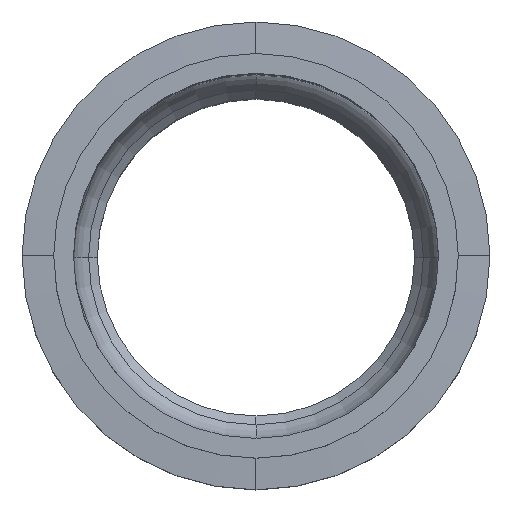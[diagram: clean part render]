
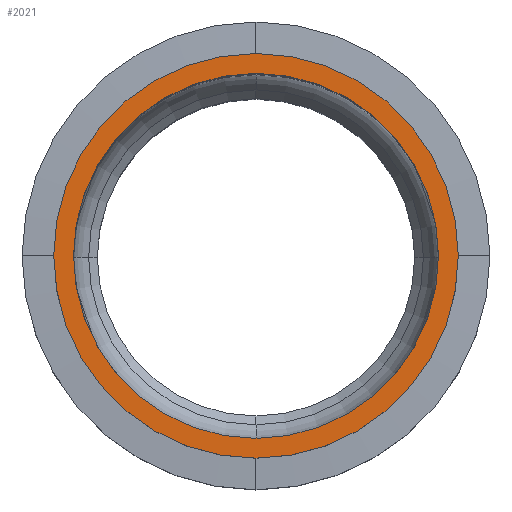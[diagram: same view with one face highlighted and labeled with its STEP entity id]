
A CAD part, top view. The second image highlights one B-rep face of the part: STEP entity #2021.
In plain terms, the highlighted planar face has unit normal (0, 0, 1).
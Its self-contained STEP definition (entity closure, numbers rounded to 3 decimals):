
#85=FACE_BOUND('',#352,.T.);
#87=PLANE('',#2172);
#217=FACE_OUTER_BOUND('',#351,.T.);
#351=EDGE_LOOP('',(#1293,#1294,#1295,#1296));
#352=EDGE_LOOP('',(#1297,#1298,#1299,#1300));
#483=CIRCLE('',#2159,25.4);
#484=CIRCLE('',#2161,25.4);
#489=CIRCLE('',#2171,25.4);
#490=CIRCLE('',#2173,28.15);
#491=CIRCLE('',#2174,28.15);
#492=CIRCLE('',#2175,28.15);
#493=CIRCLE('',#2176,28.15);
#494=CIRCLE('',#2177,25.4);
#794=VERTEX_POINT('',#2854);
#795=VERTEX_POINT('',#2856);
#796=VERTEX_POINT('',#2860);
#801=VERTEX_POINT('',#2911);
#802=VERTEX_POINT('',#2915);
#803=VERTEX_POINT('',#2916);
#804=VERTEX_POINT('',#2918);
#805=VERTEX_POINT('',#2920);
#964=EDGE_CURVE('',#795,#794,#483,.T.);
#966=EDGE_CURVE('',#795,#796,#484,.T.);
#978=EDGE_CURVE('',#801,#794,#489,.T.);
#979=EDGE_CURVE('',#802,#803,#490,.T.);
#980=EDGE_CURVE('',#804,#802,#491,.T.);
#981=EDGE_CURVE('',#805,#804,#492,.T.);
#982=EDGE_CURVE('',#803,#805,#493,.T.);
#983=EDGE_CURVE('',#801,#796,#494,.T.);
#1293=ORIENTED_EDGE('',*,*,#979,.F.);
#1294=ORIENTED_EDGE('',*,*,#980,.F.);
#1295=ORIENTED_EDGE('',*,*,#981,.F.);
#1296=ORIENTED_EDGE('',*,*,#982,.F.);
#1297=ORIENTED_EDGE('',*,*,#978,.F.);
#1298=ORIENTED_EDGE('',*,*,#983,.T.);
#1299=ORIENTED_EDGE('',*,*,#966,.F.);
#1300=ORIENTED_EDGE('',*,*,#964,.T.);
#2021=ADVANCED_FACE('',(#217,#85),#87,.T.);
#2159=AXIS2_PLACEMENT_3D('',#2857,#2374,#2375);
#2161=AXIS2_PLACEMENT_3D('',#2861,#2379,#2380);
#2171=AXIS2_PLACEMENT_3D('',#2913,#2405,#2406);
#2172=AXIS2_PLACEMENT_3D('',#2914,#2407,#2408);
#2173=AXIS2_PLACEMENT_3D('',#2917,#2409,#2410);
#2174=AXIS2_PLACEMENT_3D('',#2919,#2411,#2412);
#2175=AXIS2_PLACEMENT_3D('',#2921,#2413,#2414);
#2176=AXIS2_PLACEMENT_3D('',#2922,#2415,#2416);
#2177=AXIS2_PLACEMENT_3D('',#2923,#2417,#2418);
#2374=DIRECTION('center_axis',(0.,0.,
-1.));
#2375=DIRECTION('ref_axis',(0.,-1.,0.));
#2379=DIRECTION('center_axis',(0.,0.,
1.));
#2380=DIRECTION('ref_axis',(0.,-1.,0.));
#2405=DIRECTION('center_axis',(0.,0.,
1.));
#2406=DIRECTION('ref_axis',(0.,1.,0.));
#2407=DIRECTION('center_axis',(0.,0.,
1.));
#2408=DIRECTION('ref_axis',(0.,-1.,0.));
#2409=DIRECTION('center_axis',(0.,0.,
-1.));
#2410=DIRECTION('ref_axis',(-1.,0.,0.));
#2411=DIRECTION('center_axis',(0.,0.,
-1.));
#2412=DIRECTION('ref_axis',(0.,-1.,0.));
#2413=DIRECTION('center_axis',(0.,0.,
-1.));
#2414=DIRECTION('ref_axis',(1.,0.,0.));
#2415=DIRECTION('center_axis',(0.,0.,
-1.));
#2416=DIRECTION('ref_axis',(0.,1.,0.));
#2417=DIRECTION('center_axis',(0.,0.,
-1.));
#2418=DIRECTION('ref_axis',(0.,1.,0.));
#2854=CARTESIAN_POINT('',(-25.4,0.,0.));
#2856=CARTESIAN_POINT('',(0.,-25.4,0.));
#2857=CARTESIAN_POINT('Origin',(0.,0.,
0.));
#2860=CARTESIAN_POINT('',(25.4,0.,0.));
#2861=CARTESIAN_POINT('Origin',(0.,0.,
0.));
#2911=CARTESIAN_POINT('',(0.,25.4,0.));
#2913=CARTESIAN_POINT('Origin',(0.,0.,
0.));
#2914=CARTESIAN_POINT('Origin',(-28.15,28.15,0.));
#2915=CARTESIAN_POINT('',(-28.15,0.,0.));
#2916=CARTESIAN_POINT('',(0.,28.15,0.));
#2917=CARTESIAN_POINT('Origin',(0.,0.,
0.));
#2918=CARTESIAN_POINT('',(0.,-28.15,0.));
#2919=CARTESIAN_POINT('Origin',(0.,0.,
0.));
#2920=CARTESIAN_POINT('',(28.15,0.,0.));
#2921=CARTESIAN_POINT('Origin',(0.,0.,
0.));
#2922=CARTESIAN_POINT('Origin',(0.,0.,0.));
#2923=CARTESIAN_POINT('Origin',(0.,0.,
0.));
